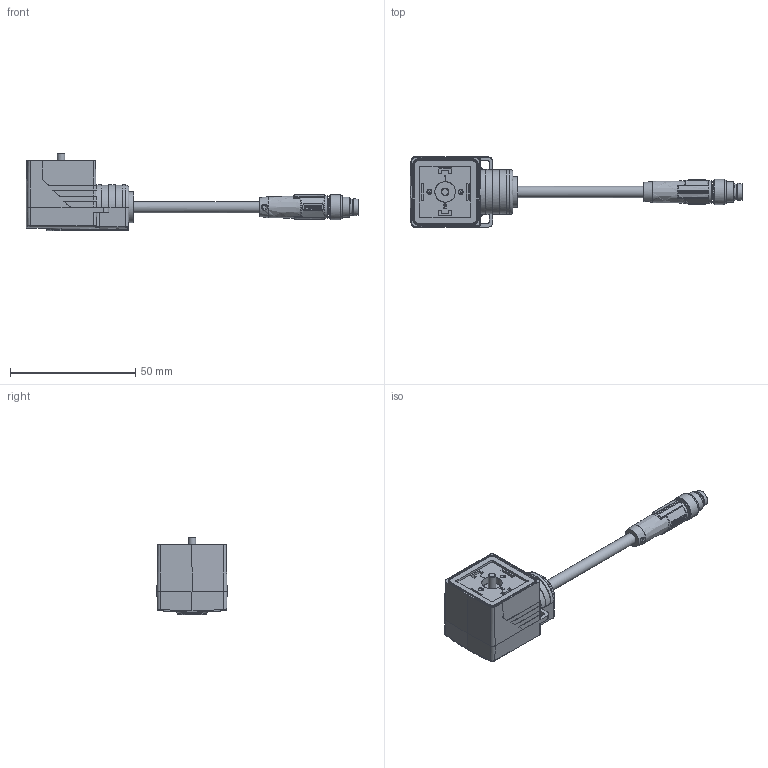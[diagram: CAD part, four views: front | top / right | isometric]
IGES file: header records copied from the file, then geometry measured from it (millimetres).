
Start section: C
Global section: file name: ESW 07S_KSG32SH.igs; native system:  By UGS Corp.; preprocessor: XPlus GENERIC/IGES 3.0; author: Author; organization: Title; date: 20140317.112933; units: millimetre
Bounding box: 132.45 x 28 x 30.87 mm (x, y, z)
Surface area: 9071.4 mm2 (no closed solid volume)
Topology: 0 solids, 0 shells, 980 faces, 9158 edges, 9158 vertices
Faces by surface type: bspline 980
